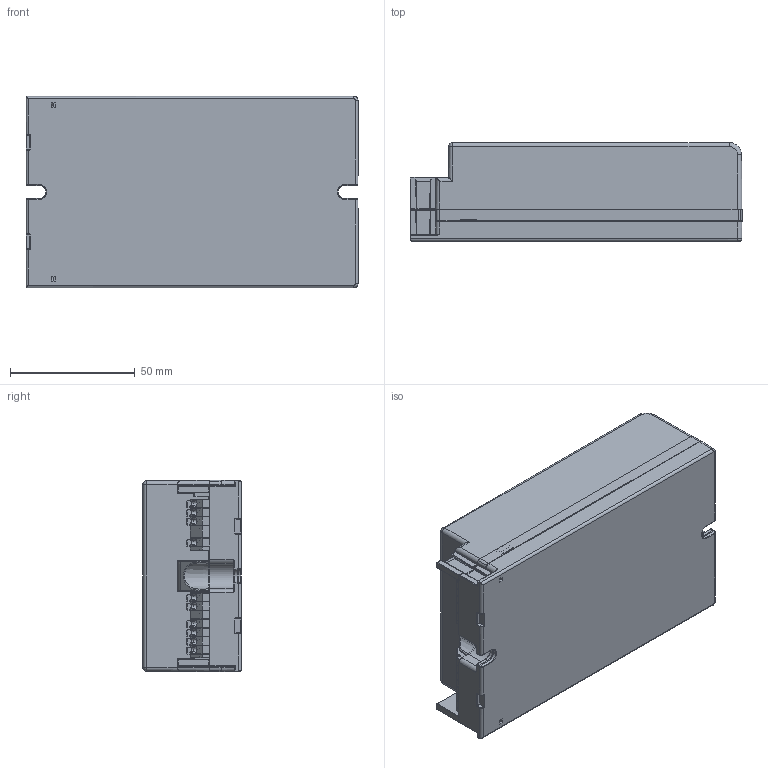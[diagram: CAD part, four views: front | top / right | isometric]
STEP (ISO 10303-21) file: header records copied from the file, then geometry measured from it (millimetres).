
FILE_DESCRIPTION (( 'STEP AP214' ), '1' );
FILE_NAME ('4224159swm000.step', '2020-06-18T15:44:26', ( 'OSRAM' ), ( 'OSRAM' ), 'SwSTEP 2.0', 'SolidWorks 2017', '' );
FILE_SCHEMA (( 'AUTOMOTIVE_DESIGN' ));
Length unit declared in the file: millimetre
Products named in the file (1): 4224159swm000
Bounding box: 133 x 39.5 x 76.7 mm (x, y, z)
Volume: 366542.7 mm3; surface area: 45035.6 mm2
Topology: 12 solids, 68 shells, 2335 faces, 5756 edges, 3542 vertices
Faces by surface type: plane 1430, cylinder 648, cone 95, bspline 91, sphere 38, torus 33
Entity records: 94223 total; most frequent: CARTESIAN_POINT 15063, ORIENTED_EDGE 11424, DIRECTION 11032, EDGE_CURVE 5712, VECTOR 3944, LINE 3944, AXIS2_PLACEMENT_3D 3544, VERTEX_POINT 3542
